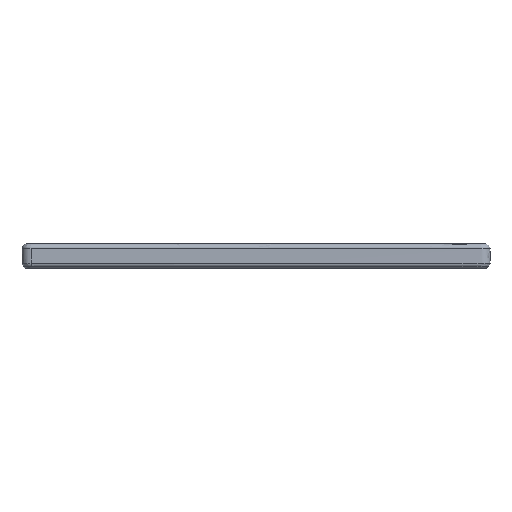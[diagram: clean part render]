
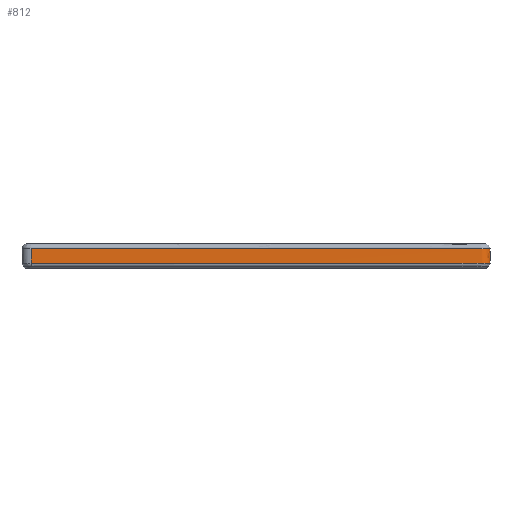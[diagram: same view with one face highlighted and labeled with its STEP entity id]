
A CAD part, front view. The second image highlights one B-rep face of the part: STEP entity #812.
In plain terms, the highlighted free-form (B-spline) face has degree [1, 2] with [2, 9] control points.
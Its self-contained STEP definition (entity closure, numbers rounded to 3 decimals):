
#812=ADVANCED_FACE($,(#2550,#1725),#21294,.T.);
#1725=FACE_BOUND($,#4262,.T.);
#2550=FACE_OUTER_BOUND($,#4261,.T.);
#4261=EDGE_LOOP($,(#9403,#9404,#9405,#9406));
#4262=EDGE_LOOP($,(#9407,#9408,#9409,#9410));
#9403=ORIENTED_EDGE($,*,*,#14049,.T.);
#9404=ORIENTED_EDGE($,*,*,#14043,.T.);
#9405=ORIENTED_EDGE($,*,*,#14042,.T.);
#9406=ORIENTED_EDGE($,*,*,#18385,.F.);
#9407=ORIENTED_EDGE($,*,*,#16174,.F.);
#9408=ORIENTED_EDGE($,*,*,#16173,.F.);
#9409=ORIENTED_EDGE($,*,*,#16172,.F.);
#9410=ORIENTED_EDGE($,*,*,#16171,.F.);
#14042=EDGE_CURVE($,#18504,#21206,#22900,.T.);
#14043=EDGE_CURVE($,#18503,#18504,#23405,.T.);
#14049=EDGE_CURVE($,#18507,#18503,#22905,.T.);
#16171=EDGE_CURVE($,#19799,#19800,#25381,.T.);
#16172=EDGE_CURVE($,#19800,#19801,#25382,.T.);
#16173=EDGE_CURVE($,#19801,#19802,#25383,.T.);
#16174=EDGE_CURVE($,#19802,#19799,#25384,.T.);
#18385=EDGE_CURVE($,#18507,#21206,#27310,.T.);
#18503=VERTEX_POINT($,#72460);
#18504=VERTEX_POINT($,#72461);
#18507=VERTEX_POINT($,#72464);
#19799=VERTEX_POINT($,#73756);
#19800=VERTEX_POINT($,#73757);
#19801=VERTEX_POINT($,#73758);
#19802=VERTEX_POINT($,#73759);
#21206=VERTEX_POINT($,#75163);
#21294=(
BOUNDED_SURFACE()
B_SPLINE_SURFACE(1,2,((#57282,#57283,#57284,#57285,#57286,#57287,#57288,
#57289,#57290),(#57291,#57292,#57293,#57294,#57295,#57296,#57297,#57298,
#57299)),.UNSPECIFIED.,.F.,.F.,.F.)
B_SPLINE_SURFACE_WITH_KNOTS((2,2),(3,2,2,2,3),(1.615,6.4),(-992.85,
-988.137,-949.137,-944.425,-796.425),
.UNSPECIFIED.)
GEOMETRIC_REPRESENTATION_ITEM()
RATIONAL_B_SPLINE_SURFACE(((1.,0.707,1.,1.,1.,0.707,
1.,1.,1.),(1.,0.707,1.,1.,1.,0.707,1.,1.,1.)))
REPRESENTATION_ITEM($)
SURFACE()
);
#22900=(
BOUNDED_CURVE()
B_SPLINE_CURVE(3,(#29986,#29987,#29988,#29989,#29990,#29991,#29992,#29993,
#29994,#29995,#29996,#29997,#29998,#29999,#30000,#30001,#30002,#30003,#30004),
.UNSPECIFIED.,.F.,.F.)
B_SPLINE_CURVE_WITH_KNOTS((4,1,1,1,3,3,1,1,1,3,4),(0.,
0.51,1.063,1.619,2.199,41.199,
41.709,42.262,42.818,43.398,191.398),
.UNSPECIFIED.)
CURVE()
GEOMETRIC_REPRESENTATION_ITEM()
RATIONAL_B_SPLINE_CURVE((1.,1.,1.,1.,1.,1.,1.,1.,1.,1.,1.,1.,1.,1.,1.,1.,
1.,1.,1.))
REPRESENTATION_ITEM($)
);
#22905=(
BOUNDED_CURVE()
B_SPLINE_CURVE(3,(#30121,#30122,#30123,#30124,#30125,#30126,#30127,#30128,
#30129,#30130,#30131,#30132,#30133,#30134,#30135,#30136,#30137,#30138,#30139,
#30140,#30141,#30142,#30143,#30144,#30145,#30146,#30147,#30148,#30149,#30150,
#30151,#30152,#30153,#30154,#30155,#30156,#30157,#30158,#30159,#30160,#30161,
#30162,#30163,#30164,#30165,#30166,#30167,#30168,#30169,#30170,#30171,#30172,
#30173),.UNSPECIFIED.,.F.,.F.)
B_SPLINE_CURVE_WITH_KNOTS((4,3,1,1,1,1,1,1,1,1,1,1,1,1,1,1,1,1,1,1,1,1,1,
3,1,1,3,1,1,1,1,1,1,1,1,1,1,1,1,1,1,1,1,1,4),(191.398,339.398,
339.462,339.526,339.653,339.909,339.976,
340.043,340.109,340.176,340.319,340.39,
340.462,340.529,340.596,340.731,340.874,
341.017,341.158,341.298,341.369,341.439,
341.518,341.597,360.488,369.933,380.598,
380.855,381.112,381.248,381.384,381.451,
381.518,381.669,381.804,381.938,382.006,
382.073,382.152,382.23,382.516,382.586,
382.656,382.726,382.796),.UNSPECIFIED.)
CURVE()
GEOMETRIC_REPRESENTATION_ITEM()
RATIONAL_B_SPLINE_CURVE((1.,1.,1.,1.,1.,1.,1.,1.,1.,1.,1.,1.,1.,1.,1.,1.,
1.,1.,1.,1.,1.,1.,1.,1.,1.,1.,1.,1.,1.,1.,1.,1.,1.,1.,1.,1.,1.,1.,1.,1.,
1.,1.,1.,1.,1.,1.,1.,1.,1.,1.,1.,1.,1.))
REPRESENTATION_ITEM($)
);
#23405=B_SPLINE_CURVE_WITH_KNOTS($,1,(#30005,#30006),.UNSPECIFIED.,.F.,.F.,
(2,2),(1.663,6.4),.UNSPECIFIED.);
#25381=B_SPLINE_CURVE_WITH_KNOTS($,1,(#39071,#39072),.UNSPECIFIED.,.F.,.F.,
(2,2),(0.,10.),.UNSPECIFIED.);
#25382=B_SPLINE_CURVE_WITH_KNOTS($,1,(#39073,#39074),.UNSPECIFIED.,.F.,.F.,
(2,2),(10.,10.1),.UNSPECIFIED.);
#25383=B_SPLINE_CURVE_WITH_KNOTS($,1,(#39075,#39076),.UNSPECIFIED.,.F.,.F.,
(2,2),(10.1,10.2),.UNSPECIFIED.);
#25384=B_SPLINE_CURVE_WITH_KNOTS($,1,(#39077,#39078),.UNSPECIFIED.,.F.,.F.,
(2,2),(10.2,10.3),.UNSPECIFIED.);
#27310=B_SPLINE_CURVE_WITH_KNOTS($,1,(#55296,#55297),.UNSPECIFIED.,.F.,.F.,
(2,2),(1.663,6.4),.UNSPECIFIED.);
#29986=CARTESIAN_POINT($,(151.,45.,3.9));
#29987=CARTESIAN_POINT($,(151.365,45.,3.9));
#29988=CARTESIAN_POINT($,(152.124,44.86,3.9));
#29989=CARTESIAN_POINT($,(153.122,44.232,3.9));
#29990=CARTESIAN_POINT($,(153.829,43.225,3.9));
#29991=CARTESIAN_POINT($,(154.,42.414,3.9));
#29992=CARTESIAN_POINT($,(154.,42.,3.9));
#29993=CARTESIAN_POINT($,(154.,29.,3.9));
#29994=CARTESIAN_POINT($,(154.,16.,3.9));
#29995=CARTESIAN_POINT($,(154.,3.,3.9));
#29996=CARTESIAN_POINT($,(154.,2.635,3.9));
#29997=CARTESIAN_POINT($,(153.86,1.876,3.9));
#29998=CARTESIAN_POINT($,(153.232,0.878,3.9));
#29999=CARTESIAN_POINT($,(152.225,0.171,3.9));
#30000=CARTESIAN_POINT($,(151.414,0.,3.9));
#30001=CARTESIAN_POINT($,(151.,0.,3.9));
#30002=CARTESIAN_POINT($,(101.667,0.,3.9));
#30003=CARTESIAN_POINT($,(52.333,0.,3.9));
#30004=CARTESIAN_POINT($,(3.,0.,3.9));
#30005=CARTESIAN_POINT($,(151.,45.,-0.837));
#30006=CARTESIAN_POINT($,(151.,45.,3.9));
#30121=CARTESIAN_POINT($,(3.,0.,-0.837));
#30122=CARTESIAN_POINT($,(52.333,0.,-0.837));
#30123=CARTESIAN_POINT($,(101.667,0.,-0.837));
#30124=CARTESIAN_POINT($,(151.,0.,-0.837));
#30125=CARTESIAN_POINT($,(151.046,0.,-0.837));
#30126=CARTESIAN_POINT($,(151.137,0.002,-0.837));
#30127=CARTESIAN_POINT($,(151.319,0.015,-0.837));
#30128=CARTESIAN_POINT($,(151.635,0.058,-0.837));
#30129=CARTESIAN_POINT($,(151.946,0.145,-0.837));
#30130=CARTESIAN_POINT($,(152.203,0.25,-0.837));
#30131=CARTESIAN_POINT($,(152.333,0.311,-0.837));
#30132=CARTESIAN_POINT($,(152.46,0.378,-0.837));
#30133=CARTESIAN_POINT($,(152.63,0.478,-0.837));
#30134=CARTESIAN_POINT($,(152.795,0.593,-0.837));
#30135=CARTESIAN_POINT($,(152.953,0.721,-0.837));
#30136=CARTESIAN_POINT($,(153.064,0.822,-0.837));
#30137=CARTESIAN_POINT($,(153.169,0.925,-0.837));
#30138=CARTESIAN_POINT($,(153.298,1.068,-0.837));
#30139=CARTESIAN_POINT($,(153.451,1.261,-0.837));
#30140=CARTESIAN_POINT($,(153.613,1.515,-0.837));
#30141=CARTESIAN_POINT($,(153.75,1.788,-0.837));
#30142=CARTESIAN_POINT($,(153.858,2.072,-0.837));
#30143=CARTESIAN_POINT($,(153.924,2.314,-0.837));
#30144=CARTESIAN_POINT($,(153.961,2.512,-0.837));
#30145=CARTESIAN_POINT($,(153.983,2.667,-0.837));
#30146=CARTESIAN_POINT($,(153.997,2.83,-0.837));
#30147=CARTESIAN_POINT($,(154.,2.943,-0.837));
#30148=CARTESIAN_POINT($,(154.,3.,-0.837));
#30149=CARTESIAN_POINT($,(154.,9.297,-0.837));
#30150=CARTESIAN_POINT($,(154.,18.742,-0.837));
#30151=CARTESIAN_POINT($,(154.,31.742,-0.837));
#30152=CARTESIAN_POINT($,(154.,38.446,-0.837));
#30153=CARTESIAN_POINT($,(154.,42.,-0.837));
#30154=CARTESIAN_POINT($,(154.,42.184,-0.837));
#30155=CARTESIAN_POINT($,(153.966,42.551,-0.837));
#30156=CARTESIAN_POINT($,(153.839,43.001,-0.837));
#30157=CARTESIAN_POINT($,(153.686,43.347,-0.837));
#30158=CARTESIAN_POINT($,(153.567,43.558,-0.837));
#30159=CARTESIAN_POINT($,(153.46,43.719,-0.837));
#30160=CARTESIAN_POINT($,(153.339,43.883,-0.837));
#30161=CARTESIAN_POINT($,(153.175,44.074,-0.837));
#30162=CARTESIAN_POINT($,(152.956,44.281,-0.837));
#30163=CARTESIAN_POINT($,(152.766,44.428,-0.837));
#30164=CARTESIAN_POINT($,(152.606,44.535,-0.837));
#30165=CARTESIAN_POINT($,(152.475,44.614,-0.837));
#30166=CARTESIAN_POINT($,(152.334,44.689,-0.837));
#30167=CARTESIAN_POINT($,(152.047,44.821,-0.837));
#30168=CARTESIAN_POINT($,(151.75,44.914,-0.837));
#30169=CARTESIAN_POINT($,(151.45,44.967,-0.837));
#30170=CARTESIAN_POINT($,(151.3,44.986,-0.837));
#30171=CARTESIAN_POINT($,(151.15,44.997,-0.837));
#30172=CARTESIAN_POINT($,(151.05,45.,-0.837));
#30173=CARTESIAN_POINT($,(151.,45.,-0.837));
#39071=CARTESIAN_POINT($,(154.,17.4,-0.1));
#39072=CARTESIAN_POINT($,(154.,27.6,-0.1));
#39073=CARTESIAN_POINT($,(154.,27.6,-0.1));
#39074=CARTESIAN_POINT($,(154.,27.6,3.1));
#39075=CARTESIAN_POINT($,(154.,27.6,3.1));
#39076=CARTESIAN_POINT($,(154.,17.4,3.1));
#39077=CARTESIAN_POINT($,(154.,17.4,3.1));
#39078=CARTESIAN_POINT($,(154.,17.4,-0.1));
#55296=CARTESIAN_POINT($,(3.,0.,-0.837));
#55297=CARTESIAN_POINT($,(3.,0.,3.9));
#57282=CARTESIAN_POINT($,(151.,45.,-0.885));
#57283=CARTESIAN_POINT($,(154.,45.,-0.885));
#57284=CARTESIAN_POINT($,(154.,42.,-0.885));
#57285=CARTESIAN_POINT($,(154.,22.5,-0.885));
#57286=CARTESIAN_POINT($,(154.,3.,-0.885));
#57287=CARTESIAN_POINT($,(154.,0.,-0.885));
#57288=CARTESIAN_POINT($,(151.,0.,-0.885));
#57289=CARTESIAN_POINT($,(77.,0.,-0.885));
#57290=CARTESIAN_POINT($,(3.,0.,-0.885));
#57291=CARTESIAN_POINT($,(151.,45.,3.9));
#57292=CARTESIAN_POINT($,(154.,45.,3.9));
#57293=CARTESIAN_POINT($,(154.,42.,3.9));
#57294=CARTESIAN_POINT($,(154.,22.5,3.9));
#57295=CARTESIAN_POINT($,(154.,3.,3.9));
#57296=CARTESIAN_POINT($,(154.,0.,3.9));
#57297=CARTESIAN_POINT($,(151.,0.,3.9));
#57298=CARTESIAN_POINT($,(77.,0.,3.9));
#57299=CARTESIAN_POINT($,(3.,0.,3.9));
#72460=CARTESIAN_POINT($,(151.,45.,-0.837));
#72461=CARTESIAN_POINT($,(151.,45.,3.9));
#72464=CARTESIAN_POINT($,(3.,0.,-0.837));
#73756=CARTESIAN_POINT($,(154.,17.4,-0.1));
#73757=CARTESIAN_POINT($,(154.,27.6,-0.1));
#73758=CARTESIAN_POINT($,(154.,27.6,3.1));
#73759=CARTESIAN_POINT($,(154.,17.4,3.1));
#75163=CARTESIAN_POINT($,(3.,0.,3.9));
